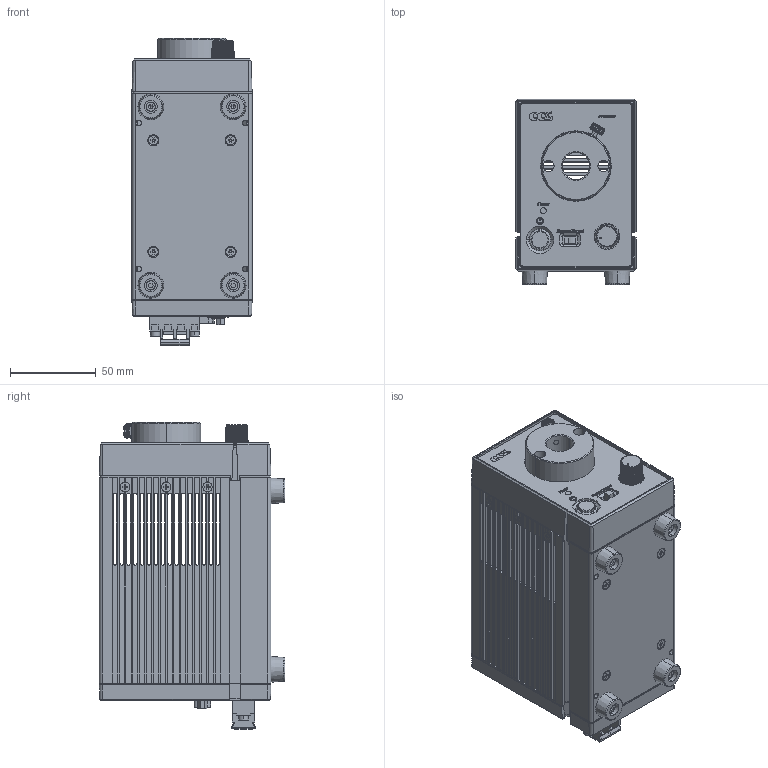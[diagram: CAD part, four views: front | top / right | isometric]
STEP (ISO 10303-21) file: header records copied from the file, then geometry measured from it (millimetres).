
FILE_DESCRIPTION (( 'STEP AP203' ), '1' );
FILE_NAME ('DJ3.STEP', '2021-12-27T05:45:58', ( 'CCS' ), ( 'シーシーエス株式会社' ), 'SwSTEP 2.0', 'SolidWorks 2017', '' );
FILE_SCHEMA (( 'CONFIG_CONTROL_DESIGN' ));
Products named in the file (1): DJ3
Bounding box: 70 x 108 x 178.88 mm (x, y, z)
Surface area: 137309.3 mm2 (no closed solid volume)
Topology: 0 solids, 89 shells, 1753 faces, 6889 edges, 5107 vertices
Faces by surface type: plane 1046, cylinder 329, cone 312, torus 30, sphere 30, bspline 6
Entity records: 78278 total; most frequent: CARTESIAN_POINT 23654, ORIENTED_EDGE 10684, DIRECTION 10465, EDGE_CURVE 6811, VERTEX_POINT 5077, VECTOR 3829, LINE 3829, AXIS2_PLACEMENT_3D 3318
